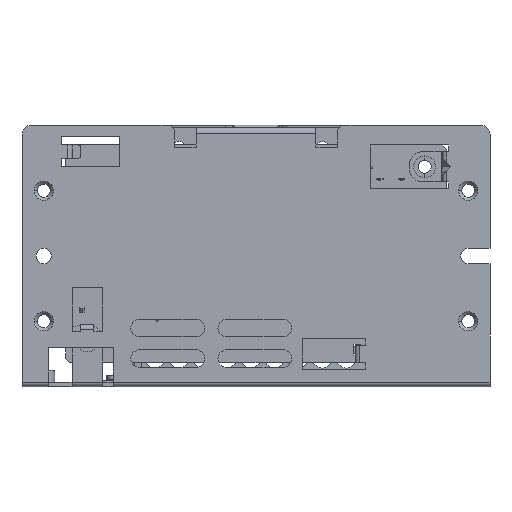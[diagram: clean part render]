
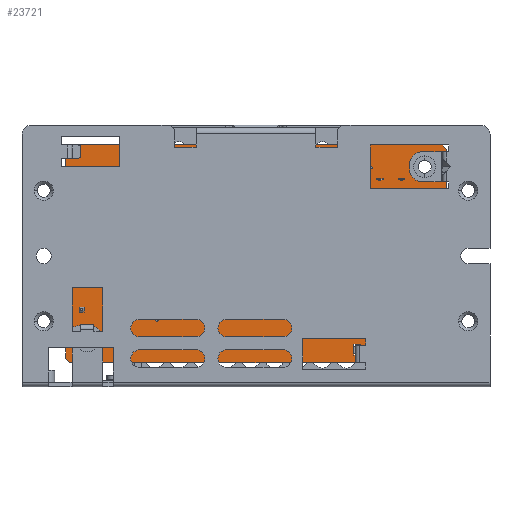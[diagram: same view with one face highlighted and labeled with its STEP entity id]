
A CAD part, front view. The second image highlights one B-rep face of the part: STEP entity #23721.
In plain terms, the highlighted planar face has unit normal (0, -1, 0) as drawn and (0, 0, -1) by its records, which use the part's own axes.
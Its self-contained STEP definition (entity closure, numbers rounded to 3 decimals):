
#22498=DIRECTION('',(-1.,0.,0.));
#22499=VECTOR('',#22498,85.5);
#22500=CARTESIAN_POINT('',(42.75,25.,-1.6));
#22501=LINE('',#22500,#22499);
#22502=DIRECTION('',(-0.707,-0.707,0.));
#22503=VECTOR('',#22502,1.414);
#22504=CARTESIAN_POINT('',(-42.75,25.,-1.6));
#22505=LINE('',#22504,#22503);
#22506=DIRECTION('',(0.,-1.,0.));
#22507=VECTOR('',#22506,3.9);
#22508=CARTESIAN_POINT('',(-43.75,24.,-1.6));
#22509=LINE('',#22508,#22507);
#22510=DIRECTION('',(1.,0.,0.));
#22511=VECTOR('',#22510,0.8);
#22512=CARTESIAN_POINT('',(-43.75,20.1,-1.6));
#22513=LINE('',#22512,#22511);
#22514=DIRECTION('',(0.,-1.,0.));
#22515=VECTOR('',#22514,3.2);
#22516=CARTESIAN_POINT('',(-42.95,20.1,-1.6));
#22517=LINE('',#22516,#22515);
#22518=DIRECTION('',(-1.,0.,0.));
#22519=VECTOR('',#22518,0.8);
#22520=CARTESIAN_POINT('',(-42.95,16.9,-1.6));
#22521=LINE('',#22520,#22519);
#22522=DIRECTION('',(0.,-1.,0.));
#22523=VECTOR('',#22522,40.9);
#22524=CARTESIAN_POINT('',(-43.75,16.9,-1.6));
#22525=LINE('',#22524,#22523);
#22526=DIRECTION('',(0.707,-0.707,0.));
#22527=VECTOR('',#22526,1.414);
#22528=CARTESIAN_POINT('',(-43.75,-24.,-1.6));
#22529=LINE('',#22528,#22527);
#22530=DIRECTION('',(1.,0.,0.));
#22531=VECTOR('',#22530,85.5);
#22532=CARTESIAN_POINT('',(-42.75,-25.,-1.6));
#22533=LINE('',#22532,#22531);
#22534=DIRECTION('',(0.707,0.707,0.));
#22535=VECTOR('',#22534,1.414);
#22536=CARTESIAN_POINT('',(42.75,-25.,-1.6));
#22537=LINE('',#22536,#22535);
#22538=DIRECTION('',(0.,1.,0.));
#22539=VECTOR('',#22538,48.);
#22540=CARTESIAN_POINT('',(43.75,-24.,-1.6));
#22541=LINE('',#22540,#22539);
#22542=DIRECTION('',(-0.707,0.707,0.));
#22543=VECTOR('',#22542,1.414);
#22544=CARTESIAN_POINT('',(43.75,24.,-1.6));
#22545=LINE('',#22544,#22543);
#22546=DIRECTION('',(0.,1.,0.));
#22547=VECTOR('',#22546,2.5);
#22548=CARTESIAN_POINT('',(24.,20.75,-1.6));
#22549=LINE('',#22548,#22547);
#22550=DIRECTION('',(1.,0.,0.));
#22551=VECTOR('',#22550,1.5);
#22552=CARTESIAN_POINT('',(22.5,20.75,-1.6));
#22553=LINE('',#22552,#22551);
#22554=DIRECTION('',(0.,-1.,0.));
#22555=VECTOR('',#22554,2.5);
#22556=CARTESIAN_POINT('',(22.5,23.25,-1.6));
#22557=LINE('',#22556,#22555);
#22558=DIRECTION('',(-1.,0.,0.));
#22559=VECTOR('',#22558,1.5);
#22560=CARTESIAN_POINT('',(24.,23.25,-1.6));
#22561=LINE('',#22560,#22559);
#22562=CARTESIAN_POINT('',(-38.75,20.,-1.6));
#22563=DIRECTION('',(0.,0.,1.));
#22564=DIRECTION('',(1.,0.,0.));
#22565=AXIS2_PLACEMENT_3D('',#22562,#22563,#22564);
#22567=CARTESIAN_POINT('',(-38.75,20.,-1.6));
#22568=DIRECTION('',(0.,0.,1.));
#22569=DIRECTION('',(-1.,0.,0.));
#22570=AXIS2_PLACEMENT_3D('',#22567,#22568,#22569);
#22572=CARTESIAN_POINT('',(38.75,-20.,-1.6));
#22573=DIRECTION('',(0.,0.,1.));
#22574=DIRECTION('',(1.,0.,0.));
#22575=AXIS2_PLACEMENT_3D('',#22572,#22573,#22574);
#22577=CARTESIAN_POINT('',(38.75,-20.,-1.6));
#22578=DIRECTION('',(0.,0.,1.));
#22579=DIRECTION('',(-1.,0.,0.));
#22580=AXIS2_PLACEMENT_3D('',#22577,#22578,#22579);
#23164=CARTESIAN_POINT('',(42.75,25.,-1.6));
#23165=CARTESIAN_POINT('',(-42.75,25.,-1.6));
#23166=VERTEX_POINT('',#23164);
#23167=VERTEX_POINT('',#23165);
#23168=CARTESIAN_POINT('',(-43.75,24.,-1.6));
#23169=VERTEX_POINT('',#23168);
#23170=CARTESIAN_POINT('',(-43.75,20.1,-1.6));
#23171=VERTEX_POINT('',#23170);
#23172=CARTESIAN_POINT('',(-42.95,20.1,-1.6));
#23173=VERTEX_POINT('',#23172);
#23174=CARTESIAN_POINT('',(-42.95,16.9,-1.6));
#23175=VERTEX_POINT('',#23174);
#23176=CARTESIAN_POINT('',(-43.75,16.9,-1.6));
#23177=VERTEX_POINT('',#23176);
#23178=CARTESIAN_POINT('',(-43.75,-24.,-1.6));
#23179=VERTEX_POINT('',#23178);
#23180=CARTESIAN_POINT('',(-42.75,-25.,-1.6));
#23181=VERTEX_POINT('',#23180);
#23182=CARTESIAN_POINT('',(42.75,-25.,-1.6));
#23183=VERTEX_POINT('',#23182);
#23184=CARTESIAN_POINT('',(43.75,-24.,-1.6));
#23185=VERTEX_POINT('',#23184);
#23186=CARTESIAN_POINT('',(43.75,24.,-1.6));
#23187=VERTEX_POINT('',#23186);
#23196=CARTESIAN_POINT('',(24.,20.75,-1.6));
#23197=CARTESIAN_POINT('',(24.,23.25,-1.6));
#23198=VERTEX_POINT('',#23196);
#23199=VERTEX_POINT('',#23197);
#23200=CARTESIAN_POINT('',(22.5,23.25,-1.6));
#23201=VERTEX_POINT('',#23200);
#23202=CARTESIAN_POINT('',(22.5,20.75,-1.6));
#23203=VERTEX_POINT('',#23202);
#23212=CARTESIAN_POINT('',(-37.,20.,-1.6));
#23213=CARTESIAN_POINT('',(-40.5,20.,-1.6));
#23214=VERTEX_POINT('',#23212);
#23215=VERTEX_POINT('',#23213);
#23216=CARTESIAN_POINT('',(40.5,-20.,-1.6));
#23217=CARTESIAN_POINT('',(37.,-20.,-1.6));
#23218=VERTEX_POINT('',#23216);
#23219=VERTEX_POINT('',#23217);
#23680=CARTESIAN_POINT('',(0.,0.,-1.6));
#23681=DIRECTION('',(0.,0.,1.));
#23682=DIRECTION('',(1.,0.,0.));
#23683=AXIS2_PLACEMENT_3D('',#23680,#23681,#23682);
#23684=PLANE('',#23683);
#23685=ORIENTED_EDGE('',*,*,#23520,.T.);
#23686=ORIENTED_EDGE('',*,*,#23535,.T.);
#23687=ORIENTED_EDGE('',*,*,#23549,.T.);
#23688=ORIENTED_EDGE('',*,*,#23563,.T.);
#23689=ORIENTED_EDGE('',*,*,#23577,.T.);
#23690=ORIENTED_EDGE('',*,*,#23591,.T.);
#23691=ORIENTED_EDGE('',*,*,#23605,.T.);
#23692=ORIENTED_EDGE('',*,*,#23619,.T.);
#23693=ORIENTED_EDGE('',*,*,#23633,.T.);
#23694=ORIENTED_EDGE('',*,*,#23647,.T.);
#23695=ORIENTED_EDGE('',*,*,#23661,.T.);
#23696=ORIENTED_EDGE('',*,*,#23674,.T.);
#23697=EDGE_LOOP('',(#23685,#23686,#23687,#23688,#23689,#23690,#23691,#23692,
#23693,#23694,#23695,#23696));
#23698=FACE_OUTER_BOUND('',#23697,.F.);
#23700=ORIENTED_EDGE('',*,*,#23699,.F.);
#23702=ORIENTED_EDGE('',*,*,#23701,.F.);
#23704=ORIENTED_EDGE('',*,*,#23703,.F.);
#23706=ORIENTED_EDGE('',*,*,#23705,.F.);
#23707=EDGE_LOOP('',(#23700,#23702,#23704,#23706));
#23708=FACE_BOUND('',#23707,.F.);
#23710=ORIENTED_EDGE('',*,*,#23709,.F.);
#23712=ORIENTED_EDGE('',*,*,#23711,.F.);
#23713=EDGE_LOOP('',(#23710,#23712));
#23714=FACE_BOUND('',#23713,.F.);
#23716=ORIENTED_EDGE('',*,*,#23715,.F.);
#23718=ORIENTED_EDGE('',*,*,#23717,.F.);
#23719=EDGE_LOOP('',(#23716,#23718));
#23720=FACE_BOUND('',#23719,.F.);
#22566=CIRCLE('',#22565,1.75);
#22571=CIRCLE('',#22570,1.75);
#22576=CIRCLE('',#22575,1.75);
#22581=CIRCLE('',#22580,1.75);
#23520=EDGE_CURVE('',#23166,#23167,#22501,.T.);
#23535=EDGE_CURVE('',#23167,#23169,#22505,.T.);
#23549=EDGE_CURVE('',#23169,#23171,#22509,.T.);
#23563=EDGE_CURVE('',#23171,#23173,#22513,.T.);
#23577=EDGE_CURVE('',#23173,#23175,#22517,.T.);
#23591=EDGE_CURVE('',#23175,#23177,#22521,.T.);
#23605=EDGE_CURVE('',#23177,#23179,#22525,.T.);
#23619=EDGE_CURVE('',#23179,#23181,#22529,.T.);
#23633=EDGE_CURVE('',#23181,#23183,#22533,.T.);
#23647=EDGE_CURVE('',#23183,#23185,#22537,.T.);
#23661=EDGE_CURVE('',#23185,#23187,#22541,.T.);
#23674=EDGE_CURVE('',#23187,#23166,#22545,.T.);
#23699=EDGE_CURVE('',#23198,#23199,#22549,.T.);
#23701=EDGE_CURVE('',#23203,#23198,#22553,.T.);
#23703=EDGE_CURVE('',#23201,#23203,#22557,.T.);
#23705=EDGE_CURVE('',#23199,#23201,#22561,.T.);
#23709=EDGE_CURVE('',#23214,#23215,#22566,.T.);
#23711=EDGE_CURVE('',#23215,#23214,#22571,.T.);
#23715=EDGE_CURVE('',#23218,#23219,#22576,.T.);
#23717=EDGE_CURVE('',#23219,#23218,#22581,.T.);
#23721=ADVANCED_FACE('',(#23698,#23708,#23714,#23720),#23684,.F.);
